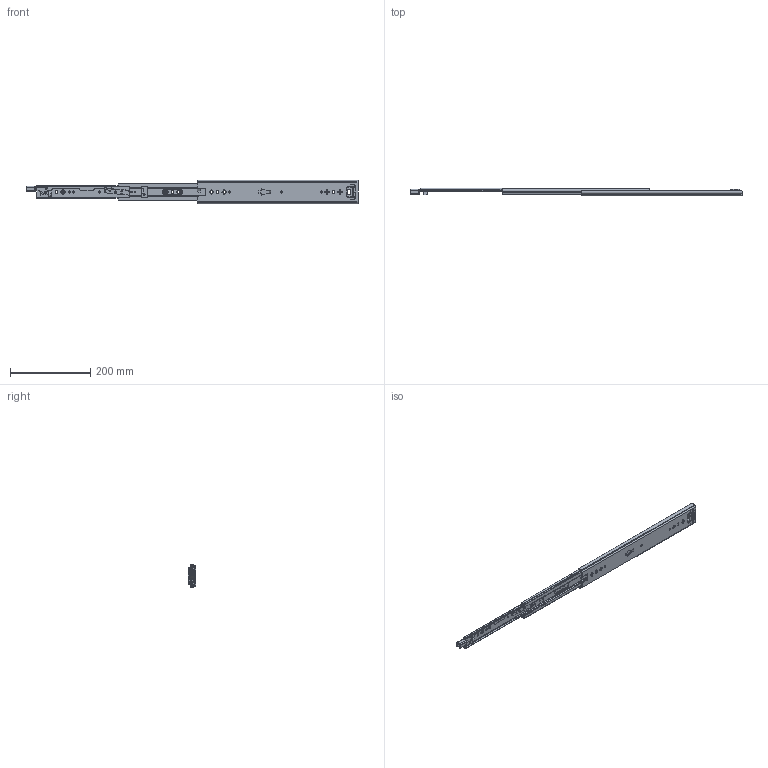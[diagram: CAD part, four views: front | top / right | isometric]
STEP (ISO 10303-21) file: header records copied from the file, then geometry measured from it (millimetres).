
FILE_DESCRIPTION((''),'2;1');
FILE_NAME('KP-57-01ZUZHUANGTU-16YOU_ASM','2023-04-03T',('jishu015'),(''),'PRO/ENGINEER BY PARAMETRIC TECHNOLOGY CORPORATION, 2010280','PRO/ENGINEER BY PARAMETRIC TECHNOLOGY CORPORATION, 2010280','');
FILE_SCHEMA(('CONFIG_CONTROL_DESIGN'));
Length unit declared in the file: millimetre
Products named in the file (21): KP-57-01WEIKE-20___; 1057WEIJIAO___________________; WAIKE__________________ASM; KP-57-01ZHONGGUI-26______; ZHONGGUIPEIJIAN-20___; ZHONGGUISUOKOU-18__; KP-57-01ZHONGGUI-26_______ASM; 1057XIAOZHUJIA11_; 1057-5-6GANZHU1_; 1057XIAOZHUJIA-14GE26_______ASM; KP-57-01NEIGUI-22____; PJ-57-08_________________; DIAOPIAN-11_________________; 50XINSUOKOU-1_________________; 1053-3SBANJI122_______________; JIAO11_______________; KP-57-01NEIGUI-22_____ASM; 1053ZHUTIAO-275______; 53-5-6GANZHU1___; 1053ZHUTIAO-175MM111___ASM; KP-57-01ZUZHUANGTU-16YOU_ASM
Assembly tree (49 placements, depth 3):
  KP-57-01ZUZHUANGTU-16YOU_ASM
    WAIKE__________________ASM
      KP-57-01WEIKE-20___
      1057WEIJIAO___________________
    KP-57-01ZHONGGUI-26_______ASM
      KP-57-01ZHONGGUI-26______
      ZHONGGUIPEIJIAN-20___
      ZHONGGUISUOKOU-18__
    1057XIAOZHUJIA-14GE26_______ASM
      1057XIAOZHUJIA11_
      1057-5-6GANZHU1_  x24
    KP-57-01NEIGUI-22_____ASM
      KP-57-01NEIGUI-22____
      PJ-57-08_________________
      DIAOPIAN-11_________________
      50XINSUOKOU-1_________________
      1053-3SBANJI122_______________
      JIAO11_______________
    1053ZHUTIAO-175MM111___ASM  x2
      1053ZHUTIAO-275______
      53-5-6GANZHU1___
Bounding box: 826.92 x 19 x 57.67 mm (x, y, z)
Volume: 174171.7 mm3; surface area: 187680.2 mm2
Topology: 51 solids, 51 shells, 1578 faces, 4495 edges, 2832 vertices
Faces by surface type: plane 684, cylinder 650, sphere 83, bspline 75, cone 44, extrusion 23, torus 19
Entity records: 53111 total; most frequent: CARTESIAN_POINT 13942, ORIENTED_EDGE 8286, DIRECTION 8015, EDGE_CURVE 4143, AXIS2_PLACEMENT_3D 2752, VERTEX_POINT 2676, VECTOR 2511, LINE 2488
